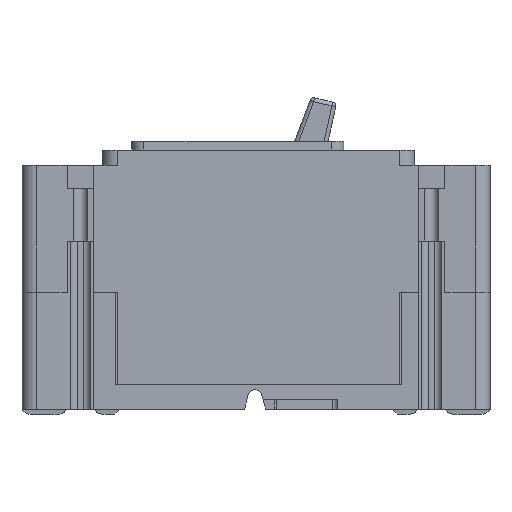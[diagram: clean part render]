
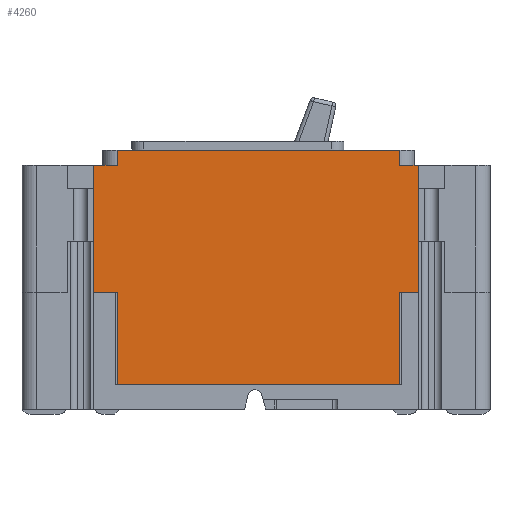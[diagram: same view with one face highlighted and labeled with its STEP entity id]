
A CAD part, left-side view. The second image highlights one B-rep face of the part: STEP entity #4260.
In plain terms, the highlighted planar face has unit normal (-1, 0, 0).
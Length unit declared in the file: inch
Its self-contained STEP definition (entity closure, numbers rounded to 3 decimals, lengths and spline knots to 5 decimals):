
#1813=CARTESIAN_POINT('',(0.,4.781,1.469));
#1814=VERTEX_POINT('',#1813);
#1822=CARTESIAN_POINT('',(0.,5.078,1.469));
#1823=VERTEX_POINT('',#1822);
#1824=CARTESIAN_POINT('',(0.,4.781,1.469));
#1825=DIRECTION('',(0.0,1.0,0.0));
#1826=VECTOR('',#1825,0.297);
#1827=LINE('',#1824,#1826);
#1828=EDGE_CURVE('',#1814,#1823,#1827,.T.);
#4018=CARTESIAN_POINT('',(0.,4.781,0.283));
#4019=VERTEX_POINT('',#4018);
#4027=CARTESIAN_POINT('',(0.,4.781,1.469));
#4028=DIRECTION('',(0.0,0.0,-1.0));
#4029=VECTOR('',#4028,1.186);
#4030=LINE('',#4027,#4029);
#4031=EDGE_CURVE('',#1814,#4019,#4030,.T.);
#4173=CARTESIAN_POINT('',(0.,5.25,2.127));
#4174=DIRECTION('',(-1.0,0.0,0.0));
#4175=DIRECTION('',(0.0,0.0,1.0));
#4176=AXIS2_PLACEMENT_3D('',#4173,#4174,#4175);
#4177=PLANE('',#4176);
#4178=ORIENTED_EDGE('',*,*,#4031,.T.);
#4179=CARTESIAN_POINT('',(0.,1.157,0.283));
#4180=VERTEX_POINT('',#4179);
#4181=CARTESIAN_POINT('',(0.,4.781,0.283));
#4182=DIRECTION('',(0.0,-1.0,0.0));
#4183=VECTOR('',#4182,3.624);
#4184=LINE('',#4181,#4183);
#4185=EDGE_CURVE('',#4019,#4180,#4184,.T.);
#4186=ORIENTED_EDGE('',*,*,#4185,.T.);
#4187=CARTESIAN_POINT('',(0.0,1.157,1.469));
#4188=VERTEX_POINT('',#4187);
#4189=CARTESIAN_POINT('',(0.,1.157,1.469));
#4190=DIRECTION('',(0.0,0.0,-1.0));
#4191=VECTOR('',#4190,1.186);
#4192=LINE('',#4189,#4191);
#4193=EDGE_CURVE('',#4188,#4180,#4192,.T.);
#4194=ORIENTED_EDGE('',*,*,#4193,.F.);
#4195=CARTESIAN_POINT('',(0.0,0.922,1.469));
#4196=VERTEX_POINT('',#4195);
#4197=CARTESIAN_POINT('',(0.,0.922,1.469));
#4198=DIRECTION('',(0.0,1.0,0.0));
#4199=VECTOR('',#4198,0.235);
#4200=LINE('',#4197,#4199);
#4201=EDGE_CURVE('',#4196,#4188,#4200,.T.);
#4202=ORIENTED_EDGE('',*,*,#4201,.F.);
#4203=CARTESIAN_POINT('',(0.,0.922,3.096));
#4204=VERTEX_POINT('',#4203);
#4205=CARTESIAN_POINT('',(0.,0.922,3.096));
#4206=DIRECTION('',(0.0,0.0,-1.0));
#4207=VECTOR('',#4206,1.627);
#4208=LINE('',#4205,#4207);
#4209=EDGE_CURVE('',#4204,#4196,#4208,.T.);
#4210=ORIENTED_EDGE('',*,*,#4209,.F.);
#4211=CARTESIAN_POINT('',(0.,1.157,3.096));
#4212=VERTEX_POINT('',#4211);
#4213=CARTESIAN_POINT('',(0.,0.922,3.096));
#4214=DIRECTION('',(0.0,1.0,0.0));
#4215=VECTOR('',#4214,0.235);
#4216=LINE('',#4213,#4215);
#4217=EDGE_CURVE('',#4204,#4212,#4216,.T.);
#4218=ORIENTED_EDGE('',*,*,#4217,.T.);
#4219=CARTESIAN_POINT('',(0.,1.157,3.293));
#4220=VERTEX_POINT('',#4219);
#4221=CARTESIAN_POINT('',(0.,1.157,3.096));
#4222=DIRECTION('',(0.0,0.0,1.0));
#4223=VECTOR('',#4222,0.197);
#4224=LINE('',#4221,#4223);
#4225=EDGE_CURVE('',#4212,#4220,#4224,.T.);
#4226=ORIENTED_EDGE('',*,*,#4225,.T.);
#4227=CARTESIAN_POINT('',(0.,4.781,3.293));
#4228=VERTEX_POINT('',#4227);
#4229=CARTESIAN_POINT('',(0.,1.157,3.293));
#4230=DIRECTION('',(0.0,1.0,0.0));
#4231=VECTOR('',#4230,3.624);
#4232=LINE('',#4229,#4231);
#4233=EDGE_CURVE('',#4220,#4228,#4232,.T.);
#4234=ORIENTED_EDGE('',*,*,#4233,.T.);
#4235=CARTESIAN_POINT('',(0.,4.781,3.096));
#4236=VERTEX_POINT('',#4235);
#4237=CARTESIAN_POINT('',(0.,4.781,3.293));
#4238=DIRECTION('',(0.0,0.0,-1.0));
#4239=VECTOR('',#4238,0.197);
#4240=LINE('',#4237,#4239);
#4241=EDGE_CURVE('',#4228,#4236,#4240,.T.);
#4242=ORIENTED_EDGE('',*,*,#4241,.T.);
#4243=CARTESIAN_POINT('',(0.,5.078,3.096));
#4244=VERTEX_POINT('',#4243);
#4245=CARTESIAN_POINT('',(0.,4.781,3.096));
#4246=DIRECTION('',(0.0,1.0,0.0));
#4247=VECTOR('',#4246,0.297);
#4248=LINE('',#4245,#4247);
#4249=EDGE_CURVE('',#4236,#4244,#4248,.T.);
#4250=ORIENTED_EDGE('',*,*,#4249,.T.);
#4251=CARTESIAN_POINT('',(0.,5.078,3.096));
#4252=DIRECTION('',(0.0,0.0,-1.0));
#4253=VECTOR('',#4252,1.627);
#4254=LINE('',#4251,#4253);
#4255=EDGE_CURVE('',#4244,#1823,#4254,.T.);
#4256=ORIENTED_EDGE('',*,*,#4255,.T.);
#4257=ORIENTED_EDGE('',*,*,#1828,.F.);
#4258=EDGE_LOOP('',(#4178,#4186,#4194,#4202,#4210,#4218,#4226,#4234,#4242,#4250,#4256,#4257));
#4259=FACE_OUTER_BOUND('',#4258,.T.);
#4260=ADVANCED_FACE('',(#4259),#4177,.T.);
